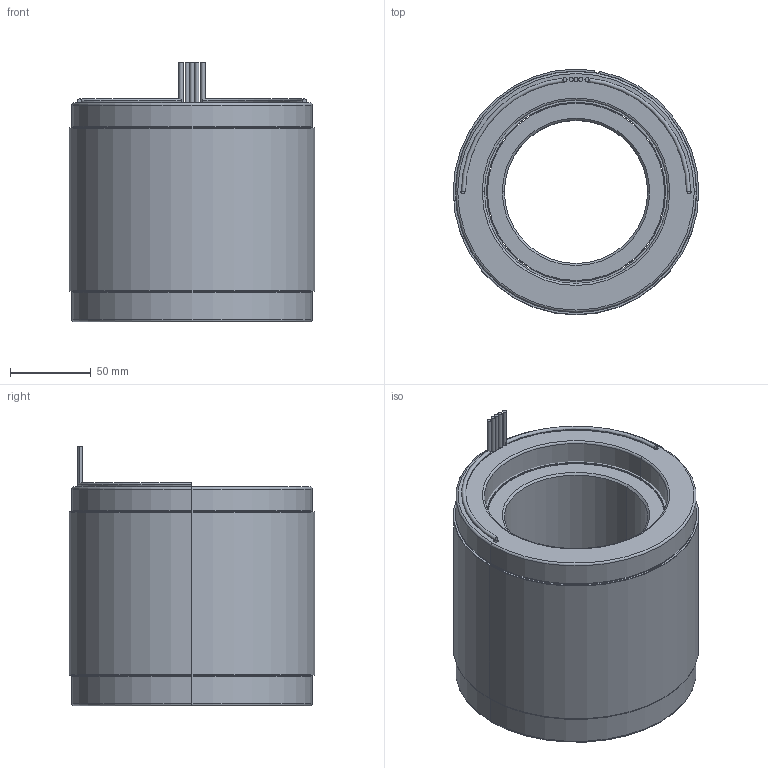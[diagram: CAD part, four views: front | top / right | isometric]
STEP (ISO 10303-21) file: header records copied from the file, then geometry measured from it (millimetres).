
FILE_DESCRIPTION (( 'STEP AP214' ), '1' );
FILE_NAME ('6100338-03.STEP', '2019-10-23T22:33:33', ( '' ), ( '' ), 'SwSTEP 2.0', 'SolidWorks 2016', '' );
FILE_SCHEMA (( 'AUTOMOTIVE_DESIGN' ));
Length unit declared in the file: millimetre
Products named in the file (12): 4600554-00; 4500541-XX_4500541-03; 4400094-00; 4450181-XX_4450181-03; COMP4500541-XX(COIL)_COMP4500541-03(COIL); 3100410-00_INSTALLED; 4250362-XX_4250362-03; 4150168-XX_4150168-03; 6100338-03
Assembly tree (12 placements, depth 4):
  6100338-03
    4250362-XX_4250362-03
      4150168-XX_4150168-03
    4500541-XX_4500541-03
      4450181-XX_4450181-03
        4450181-XX_4450181-03
        4400094-00
        4400094-00
        4600554-00
        4600554-00
      COMP4500541-XX(COIL)_COMP4500541-03(COIL)
      3100410-00_INSTALLED  x2
Bounding box: 152.4 x 152.39 x 161.29 mm (x, y, z)
Volume: 2207340.4 mm3; surface area: 367011.9 mm2
Topology: 20 solids, 20 shells, 128 faces, 246 edges, 160 vertices
Faces by surface type: cylinder 58, plane 54, torus 12, cone 4
Entity records: 3627 total; most frequent: DIRECTION 616, CARTESIAN_POINT 486, ORIENTED_EDGE 432, AXIS2_PLACEMENT_3D 270, EDGE_CURVE 216, CIRCLE 140, VERTEX_POINT 140, EDGE_LOOP 128
